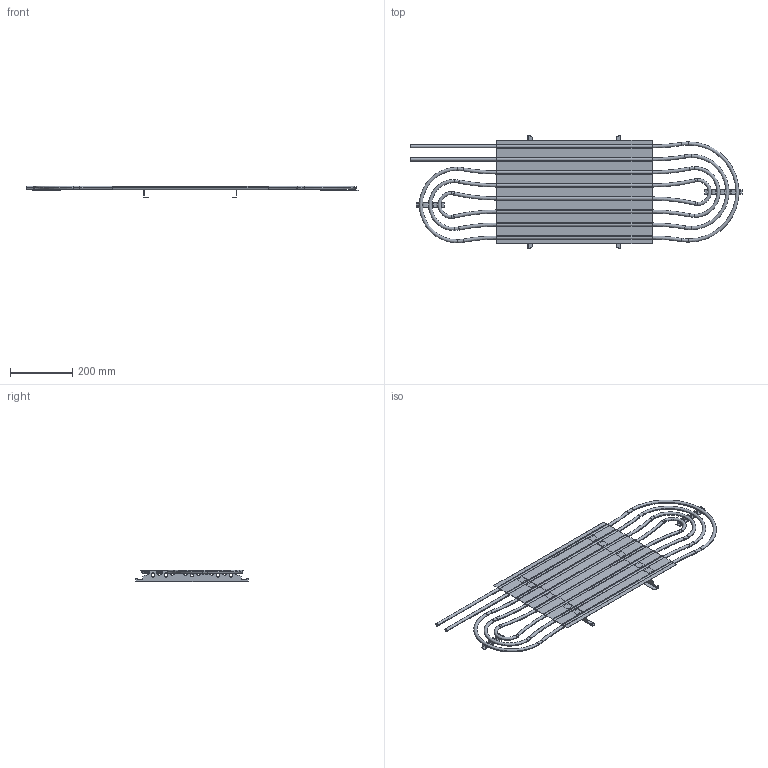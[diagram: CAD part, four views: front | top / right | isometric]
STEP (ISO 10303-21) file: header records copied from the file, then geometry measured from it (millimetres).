
FILE_DESCRIPTION (( 'STEP AP214' ), '1' );
FILE_NAME ('AP 50.STEP', '2021-04-13T07:18:42', ( '' ), ( '' ), 'SwSTEP 2.0', 'SolidWorks 2019', '' );
FILE_SCHEMA (( 'AUTOMOTIVE_DESIGN' ));
Length unit declared in the file: millimetre
Products named in the file (12): AP 50; F駸獷4; F駸獷3; P003 - Termék; Fésû; P003 - Termék_Felhajtott; cs饘esb嫕at_0,5; G54R2_ref_lemez_hf_p_4valyu_500mm__2qqq_334x0500; cs饘esb嫕at; G54R2_ref_lemez_hf_p_4valyu_500mm__2qqq
Assembly tree (6 placements, depth 2):
  AP 50
    G54R2_ref_lemez_hf_p_4valyu_500mm__2qqq_334x0500
    cs饘esb嫕at_0,5
    P003 - Termék_Felhajtott  x2
    F駸獷4
    F駸獷3
  P003 - Termék
  Fésû
  P003 - Termék
  cs饘esb嫕at
Bounding box: 1070 x 362 x 37.5 mm (x, y, z)
Volume: 276334.2 mm3; surface area: 1065610.1 mm2
Topology: 6 solids, 6 shells, 758 faces, 1966 edges, 1220 vertices
Faces by surface type: cylinder 335, plane 263, torus 140, bspline 20
Entity records: 18004 total; most frequent: CARTESIAN_POINT 3814, DIRECTION 3184, ORIENTED_EDGE 2828, EDGE_CURVE 1414, AXIS2_PLACEMENT_3D 1254, VERTEX_POINT 868, CIRCLE 698, LINE 676
